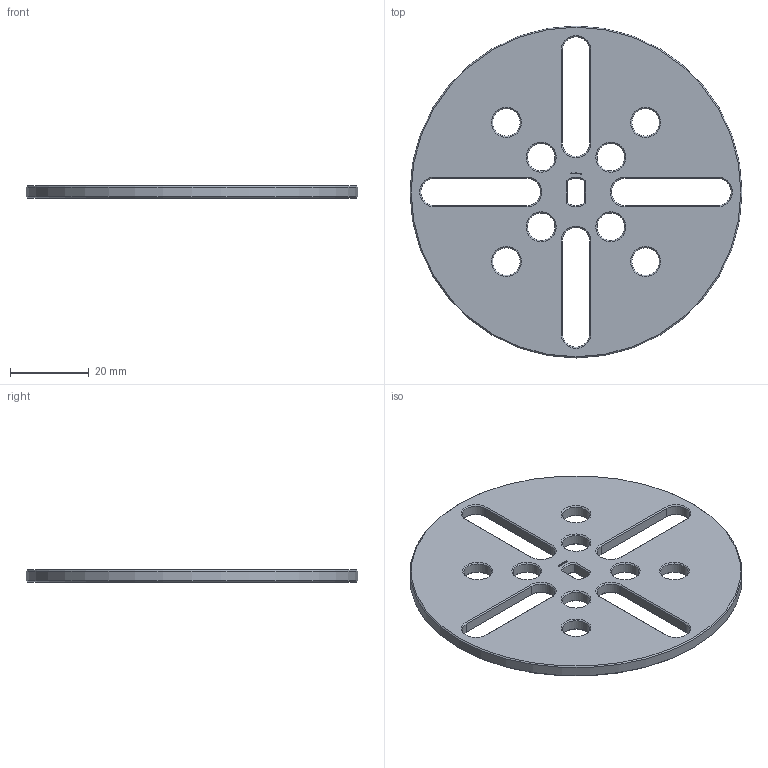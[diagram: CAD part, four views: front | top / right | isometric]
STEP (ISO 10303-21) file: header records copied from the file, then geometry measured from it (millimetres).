
FILE_DESCRIPTION(/* description */ (''),/* implementation_level */ '2;1');
FILE_NAME(/* name */ '/Users/paulokiefe/Desktop/STEMFIE/Fasteners/Washers/Fixed/Washer WSR FXD BU0.25x6.75 - SPN-WSR-0024 v1.step',/* time_stamp */ '2020-09-27T23:20:03+02:00',/* author */ (''),/* organization */ (''),/* preprocessor_version */ 'ST-DEVELOPER v18.1',/* originating_system */ 'Autodesk Translation Framework v9.3.0.1241',/* authorisation */ '');
FILE_SCHEMA (('AUTOMOTIVE_DESIGN { 1 0 10303 214 3 1 1 }'));
Length unit declared in the file: millimetre
Products named in the file (1): Washer WSR FXD BU0.25x6.75 - SPN-WSR-0024
Bounding box: 84.38 x 84.38 x 3.12 mm (x, y, z)
Volume: 13822.6 mm3; surface area: 10936.5 mm2
Topology: 1 solids, 1 shells, 333 faces, 899 edges, 580 vertices
Faces by surface type: plane 276, cone 38, cylinder 19
Full cylindrical faces by diameter (mm): 7 x8, 84.375 x1
Entity records: 10318 total; most frequent: CARTESIAN_POINT 1837, ORIENTED_EDGE 1798, DIRECTION 1635, EDGE_CURVE 899, LINE 815, VECTOR 815, VERTEX_POINT 580, AXIS2_PLACEMENT_3D 410
